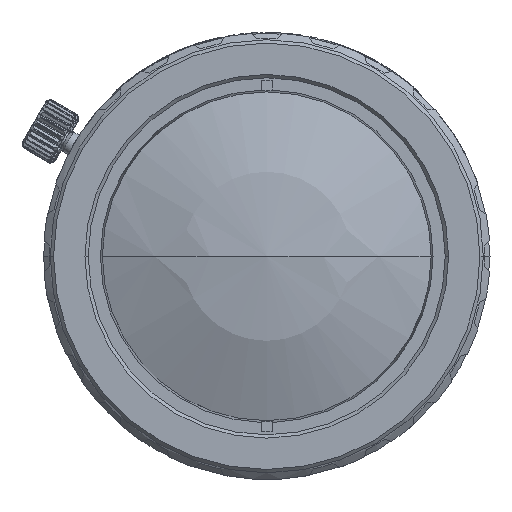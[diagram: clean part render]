
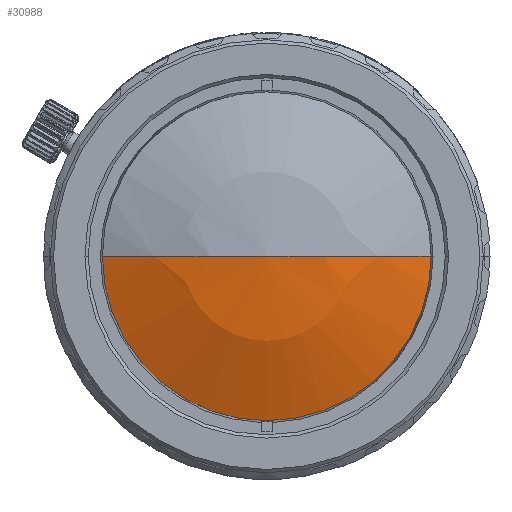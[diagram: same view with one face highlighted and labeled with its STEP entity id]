
A CAD part, left-side view. The second image highlights one B-rep face of the part: STEP entity #30988.
In plain terms, the highlighted spherical face has radius 35.524 mm.
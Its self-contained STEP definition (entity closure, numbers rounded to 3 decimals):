
#7197=CARTESIAN_POINT('',(-24.739,0.,0.));
#7198=DIRECTION('',(1.,0.,0.));
#7199=DIRECTION('',(0.,-1.,0.));
#7200=AXIS2_PLACEMENT_3D('',#7197,#7198,#7199);
#7202=CARTESIAN_POINT('',(7.552,0.,0.));
#7203=DIRECTION('',(0.,0.,1.));
#7204=DIRECTION('',(-0.909,0.417,0.));
#7205=AXIS2_PLACEMENT_3D('',#7202,#7203,#7204);
#7207=CARTESIAN_POINT('',(7.552,0.,0.));
#7208=DIRECTION('',(0.,0.,-1.));
#7209=DIRECTION('',(-0.909,-0.417,0.));
#7210=AXIS2_PLACEMENT_3D('',#7207,#7208,#7209);
#24890=CARTESIAN_POINT('',(-24.739,14.808,0.));
#24891=CARTESIAN_POINT('',(-24.739,-14.808,0.));
#24892=VERTEX_POINT('',#24890);
#24893=VERTEX_POINT('',#24891);
#24924=CARTESIAN_POINT('',(-27.972,0.,0.));
#24925=VERTEX_POINT('',#24924);
#30978=CARTESIAN_POINT('',(7.552,0.,0.));
#30979=DIRECTION('',(1.,0.,0.));
#30980=DIRECTION('',(0.,-1.,0.));
#30981=AXIS2_PLACEMENT_3D('',#30978,#30979,#30980);
#30982=SPHERICAL_SURFACE('',#30981,35.524);
#30983=ORIENTED_EDGE('',*,*,#30960,.T.);
#30984=ORIENTED_EDGE('',*,*,#30973,.T.);
#30985=ORIENTED_EDGE('',*,*,#30971,.F.);
#30986=EDGE_LOOP('',(#30983,#30984,#30985));
#30987=FACE_OUTER_BOUND('',#30986,.F.);
#7201=CIRCLE('',#7200,14.808);
#7206=CIRCLE('',#7205,35.524);
#7211=CIRCLE('',#7210,35.524);
#30960=EDGE_CURVE('',#24893,#24892,#7201,.T.);
#30971=EDGE_CURVE('',#24893,#24925,#7211,.T.);
#30973=EDGE_CURVE('',#24892,#24925,#7206,.T.);
#30988=ADVANCED_FACE('',(#30987),#30982,.T.);
